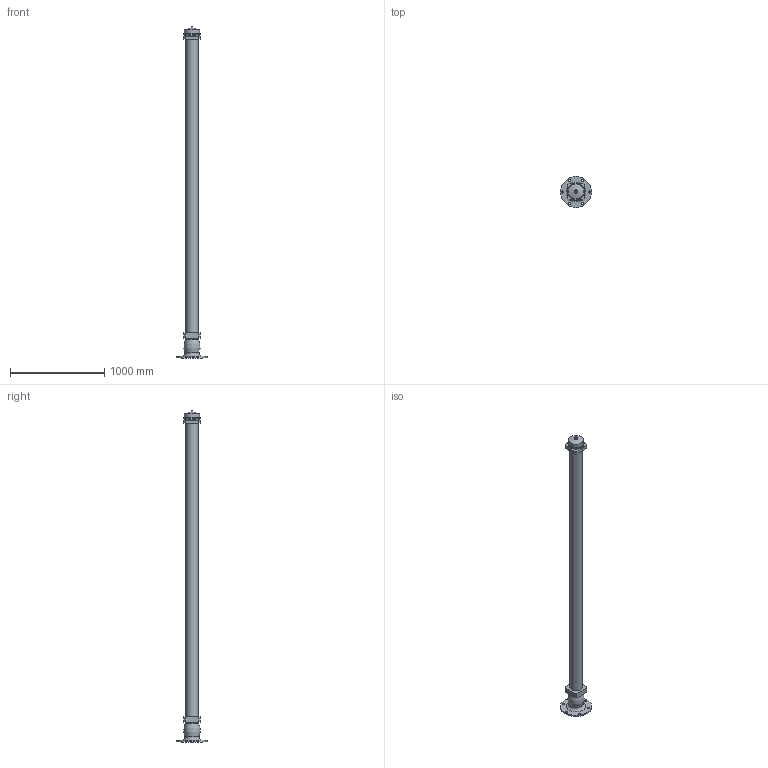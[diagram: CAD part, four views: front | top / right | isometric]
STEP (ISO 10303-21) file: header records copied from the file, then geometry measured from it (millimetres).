
FILE_DESCRIPTION(('STEP AP203'), '1');
FILE_NAME('Ãèäðàíò GPP 3500 ïîæàðíûé ïîäçåìíûé', '', ('UNSPECIFIED'), ('UNSPECIFIED'), 'ASCON STEP Converter 1.6', 'ASCON Math Kernel', '');
FILE_SCHEMA(('CONFIG_CONTROL_DESIGN'));
Length unit declared in the file: millimetre
Bounding box: 330 x 330 x 3522 mm (x, y, z)
Volume: 50413375.2 mm3; surface area: 1718746.1 mm2
Topology: 1 solids, 1 shells, 47 faces, 104 edges, 67 vertices
Faces by surface type: plane 26, cylinder 12, cone 7, torus 2
Full cylindrical faces by diameter (mm): 20 x1, 22 x6, 129 x1, 142 x1, 143 x1, 157.302 x1, 160 x1
Entity records: 1617 total; most frequent: DIRECTION 212, CARTESIAN_POINT 196, ORIENTED_EDGE 164, EDGE_LOOP 88, AXIS2_PLACEMENT_3D 82, EDGE_CURVE 82, VERTEX_POINT 66, COLOUR_RGB 48
